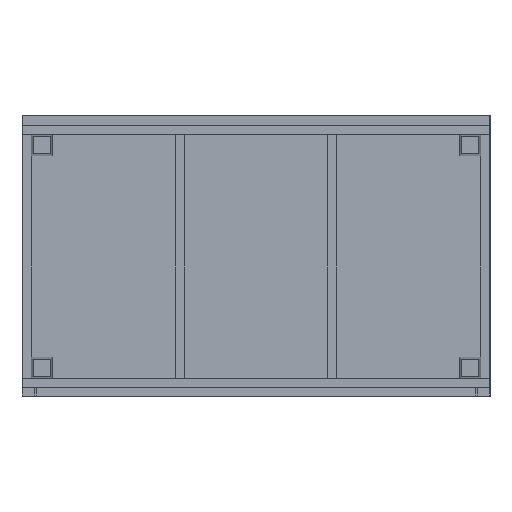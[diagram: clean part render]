
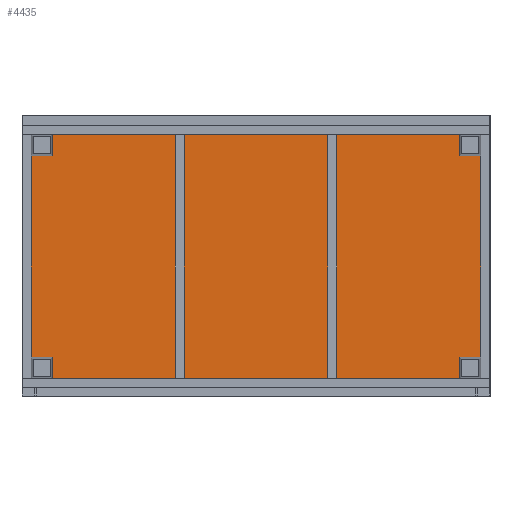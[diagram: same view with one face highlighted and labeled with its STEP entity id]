
A CAD part, front view. The second image highlights one B-rep face of the part: STEP entity #4435.
In plain terms, the highlighted planar face has unit normal (0, -1, 0).
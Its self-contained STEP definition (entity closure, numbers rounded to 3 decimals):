
#127 = CARTESIAN_POINT ( 'NONE',  ( -500., 231., 38. ) ) ;
#328 = DIRECTION ( 'NONE',  ( 1., 0., 0. ) ) ;
#728 = ORIENTED_EDGE ( 'NONE', *, *, #4405, .F. ) ;
#779 = DIRECTION ( 'NONE',  ( 0., 0., -1. ) ) ;
#1193 = CARTESIAN_POINT ( 'NONE',  ( -500., 231., 38. ) ) ;
#1206 = CARTESIAN_POINT ( 'NONE',  ( 500., 231., 38. ) ) ;
#1265 = ORIENTED_EDGE ( 'NONE', *, *, #2294, .T. ) ;
#1357 = VECTOR ( 'NONE', #3231, 1000. ) ;
#1451 = LINE ( 'NONE', #4520, #1357 ) ;
#1624 = DIRECTION ( 'NONE',  ( 0., -1., 0. ) ) ;
#2057 = FACE_OUTER_BOUND ( 'NONE', #4766, .T. ) ;
#2167 = AXIS2_PLACEMENT_3D ( 'NONE', #4390, #1624, #328 ) ;
#2294 = EDGE_CURVE ( 'NONE', #2634, #5851, #1451, .T. ) ;
#2484 = VERTEX_POINT ( 'NONE', #1193 ) ;
#2488 = LINE ( 'NONE', #4752, #4523 ) ;
#2634 = VERTEX_POINT ( 'NONE', #2840 ) ;
#2671 = CARTESIAN_POINT ( 'NONE',  ( -500., 231., 579. ) ) ;
#2840 = CARTESIAN_POINT ( 'NONE',  ( 500., 231., 579. ) ) ;
#3029 = CARTESIAN_POINT ( 'NONE',  ( 500., 231., 38. ) ) ;
#3231 = DIRECTION ( 'NONE',  ( -1., 0., 0. ) ) ;
#3666 = ORIENTED_EDGE ( 'NONE', *, *, #4270, .F. ) ;
#3761 = DIRECTION ( 'NONE',  ( 0., 0., 1. ) ) ;
#3913 = DIRECTION ( 'NONE',  ( -1., 0., 0. ) ) ;
#4270 = EDGE_CURVE ( 'NONE', #2484, #5851, #5513, .T. ) ;
#4332 = EDGE_CURVE ( 'NONE', #4394, #2484, #2488, .T. ) ;
#4390 = CARTESIAN_POINT ( 'NONE',  ( 1041.334, 231., 38. ) ) ;
#4394 = VERTEX_POINT ( 'NONE', #1206 ) ;
#4405 = EDGE_CURVE ( 'NONE', #2634, #4394, #5645, .T. ) ;
#4420 = VECTOR ( 'NONE', #779, 1000. ) ;
#4435 = ADVANCED_FACE ( 'NONE', ( #2057 ), #4811, .T. ) ;
#4520 = CARTESIAN_POINT ( 'NONE',  ( 1041.334, 231., 579. ) ) ;
#4523 = VECTOR ( 'NONE', #3913, 1000. ) ;
#4752 = CARTESIAN_POINT ( 'NONE',  ( 1041.334, 231., 38. ) ) ;
#4766 = EDGE_LOOP ( 'NONE', ( #728, #1265, #3666, #4805 ) ) ;
#4805 = ORIENTED_EDGE ( 'NONE', *, *, #4332, .F. ) ;
#4811 = PLANE ( 'NONE',  #2167 ) ;
#5513 = LINE ( 'NONE', #127, #5819 ) ;
#5645 = LINE ( 'NONE', #3029, #4420 ) ;
#5819 = VECTOR ( 'NONE', #3761, 1000. ) ;
#5851 = VERTEX_POINT ( 'NONE', #2671 ) ;
